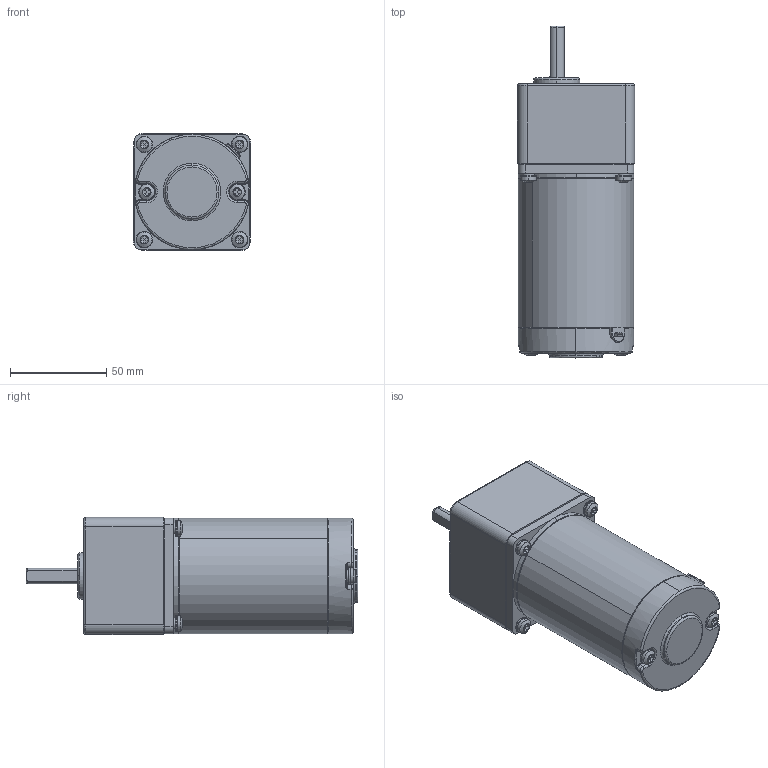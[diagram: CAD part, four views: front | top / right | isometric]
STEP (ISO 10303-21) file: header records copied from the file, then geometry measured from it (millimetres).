
FILE_DESCRIPTION (( 'STEP AP203' ), '1' );
FILE_NAME ('60 77儂褲囀离.STEP', '2021-07-13T06:50:28', ( '' ), ( '' ), 'SwSTEP 2.0', 'SolidWorks 2019', '' );
FILE_SCHEMA (( 'CONFIG_CONTROL_DESIGN' ));
Length unit declared in the file: millimetre
Products named in the file (10): JIKE-2_1; 蚾饜极5^60 77儂褲囀离; TANDIAN_1; 60 77儂褲囀离; 錨璃65_1; LUDING_1; PENGDIAN_1; HOUGAI_1; 蚾饜极6^60 77儂褲囀离; ヶ裔
Assembly tree (24 placements, depth 3):
  60 77儂褲囀离
    HOUGAI_1
    JIKE-2_1
    LUDING_1  x4
    PENGDIAN_1  x4
    TANDIAN_1  x4
    錨璃65_1
    ヶ裔
    蚾饜极6^60 77儂褲囀离
      LUDING_1
      TANDIAN_1
      PENGDIAN_1
    蚾饜极5^60 77儂褲囀离
      LUDING_1
      TANDIAN_1
      PENGDIAN_1
Bounding box: 60.92 x 172.5 x 60.92 mm (x, y, z)
Volume: 216019.2 mm3; surface area: 72793.9 mm2
Topology: 22 solids, 22 shells, 605 faces, 1421 edges, 875 vertices
Faces by surface type: cylinder 197, cone 191, plane 152, bspline 47, torus 18
Entity records: 11126 total; most frequent: CARTESIAN_POINT 3223, DIRECTION 1423, ORIENTED_EDGE 1316, EDGE_CURVE 658, AXIS2_PLACEMENT_3D 589, VERTEX_POINT 410, CIRCLE 317, EDGE_LOOP 316
